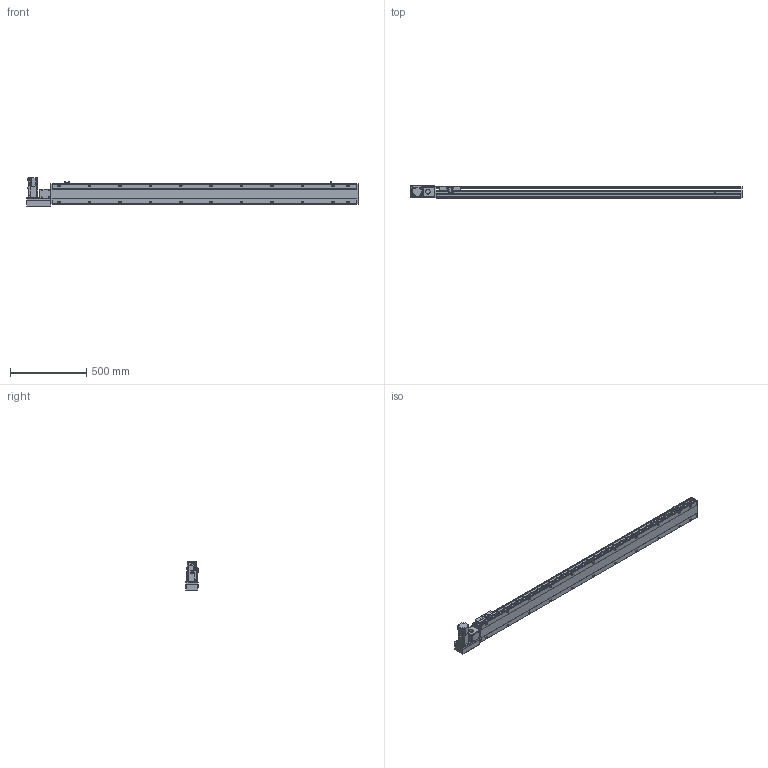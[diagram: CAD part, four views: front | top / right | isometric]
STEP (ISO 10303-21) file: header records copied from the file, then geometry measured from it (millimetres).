
FILE_DESCRIPTION( ( 'STEP AP214' ), '1' );
FILE_NAME( 'x:/temp/worker_27/temp/exporttempdir_6708_304_tw259/format_0/PBS140-P40-S1750-L-T40-C1-N(0).stp', '2022-06-06T01:02:54', ( 'License CC BY-ND 4.0' ), ( 'CADENAS' ), ' ', 'PARTsolutions', ' ' );
FILE_SCHEMA( ( 'AUTOMOTIVE_DESIGN { 1 0 10303 214 1 1 1 1 }' ) );
Length unit declared in the file: millimetre
Products named in the file (7): PBS140-P40-S1750-L-T40-C1-N(0); _PBS140-S1750()_body; _PBS140T-L_motors; _T40-p1; _PBS140_sliser; _PBS140_plant; _PBS140_sensor
Assembly tree (8 placements, depth 2):
  PBS140-P40-S1750-L-T40-C1-N(0)
    _PBS140-S1750()_body
    _PBS140T-L_motors
    _T40-p1
    _PBS140_sliser
    _PBS140_plant
    _PBS140_sensor  x3
Bounding box: 2183 x 80.5 x 189.7 mm (x, y, z)
Volume: 9656123 mm3; surface area: 1660106.5 mm2
Topology: 8 solids, 8 shells, 1123 faces, 2956 edges, 1931 vertices
Faces by surface type: plane 710, cylinder 355, cone 48, sphere 8, torus 2
Full cylindrical faces by diameter (mm): 3.242 x4, 4 x2, 4.134 x4, 4.4 x8, 4.5 x2, 4.8 x4, 4.917 x30, 5.5 x7, 6 x2, 7 x24, 7.5 x8, 8 x12, 8.5 x4, 10.5 x22, 14 x1, 30 x2, 50 x2
Entity records: 41215 total; most frequent: CARTESIAN_POINT 6755, DIRECTION 5407, ORIENTED_EDGE 5092, EDGE_CURVE 2546, AXIS2_PLACEMENT_3D 1897, VERTEX_POINT 1773, LINE 1613, VECTOR 1613
